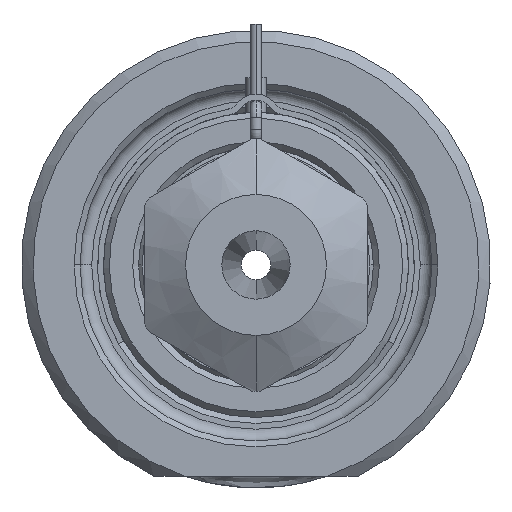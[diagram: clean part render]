
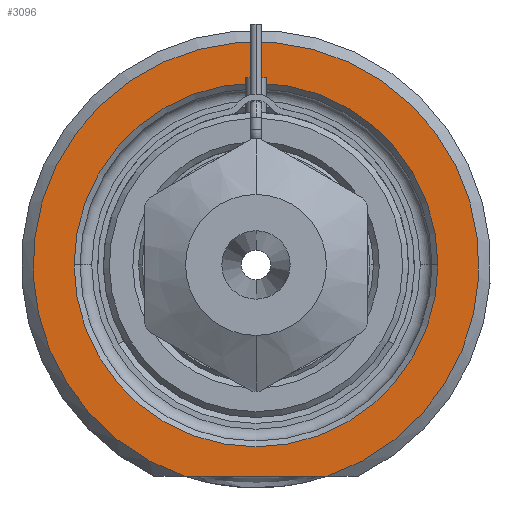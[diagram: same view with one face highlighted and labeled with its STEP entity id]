
A CAD part, front view. The second image highlights one B-rep face of the part: STEP entity #3096.
In plain terms, the highlighted planar face has unit normal (0, -1, 0).
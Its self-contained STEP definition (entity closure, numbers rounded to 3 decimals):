
#1=DIRECTION('',(1.,0.,0.));
#2=VECTOR('',#1,12.166);
#3=CARTESIAN_POINT('',(-6.083,0.,-18.));
#4=LINE('',#3,#2);
#5=CARTESIAN_POINT('',(0.,0.,0.));
#6=DIRECTION('',(0.,1.,0.));
#7=DIRECTION('',(-1.,0.,0.));
#8=AXIS2_PLACEMENT_3D('',#5,#6,#7);
#10=CARTESIAN_POINT('',(0.,0.,0.));
#11=DIRECTION('',(0.,1.,0.));
#12=DIRECTION('',(1.,0.,0.));
#13=AXIS2_PLACEMENT_3D('',#10,#11,#12);
#264=CARTESIAN_POINT('',(0.,0.,0.));
#265=DIRECTION('',(0.,-1.,0.));
#266=DIRECTION('',(0.32,0.,-0.947));
#267=AXIS2_PLACEMENT_3D('',#264,#265,#266);
#2595=CARTESIAN_POINT('',(-15.5,0.,0.));
#2596=CARTESIAN_POINT('',(15.5,0.,0.));
#2597=VERTEX_POINT('',#2595);
#2598=VERTEX_POINT('',#2596);
#2653=CARTESIAN_POINT('',(-6.083,0.,-18.));
#2654=CARTESIAN_POINT('',(6.083,0.,-18.));
#2655=VERTEX_POINT('',#2653);
#2656=VERTEX_POINT('',#2654);
#3079=CARTESIAN_POINT('',(0.,0.,0.));
#3080=DIRECTION('',(0.,-1.,0.));
#3081=DIRECTION('',(1.,0.,0.));
#3082=AXIS2_PLACEMENT_3D('',#3079,#3080,#3081);
#3083=PLANE('',#3082);
#3085=ORIENTED_EDGE('',*,*,#3084,.F.);
#3087=ORIENTED_EDGE('',*,*,#3086,.F.);
#3088=EDGE_LOOP('',(#3085,#3087));
#3089=FACE_OUTER_BOUND('',#3088,.F.);
#3091=ORIENTED_EDGE('',*,*,#3090,.F.);
#3093=ORIENTED_EDGE('',*,*,#3092,.F.);
#3094=EDGE_LOOP('',(#3091,#3093));
#3095=FACE_BOUND('',#3094,.F.);
#3096=ADVANCED_FACE('',(#3089,#3095),#3083,.T.);
#9=CIRCLE('',#8,15.5);
#14=CIRCLE('',#13,15.5);
#268=CIRCLE('',#267,19.);
#3084=EDGE_CURVE('',#2655,#2656,#4,.T.);
#3086=EDGE_CURVE('',#2656,#2655,#268,.T.);
#3090=EDGE_CURVE('',#2597,#2598,#9,.T.);
#3092=EDGE_CURVE('',#2598,#2597,#14,.T.);
